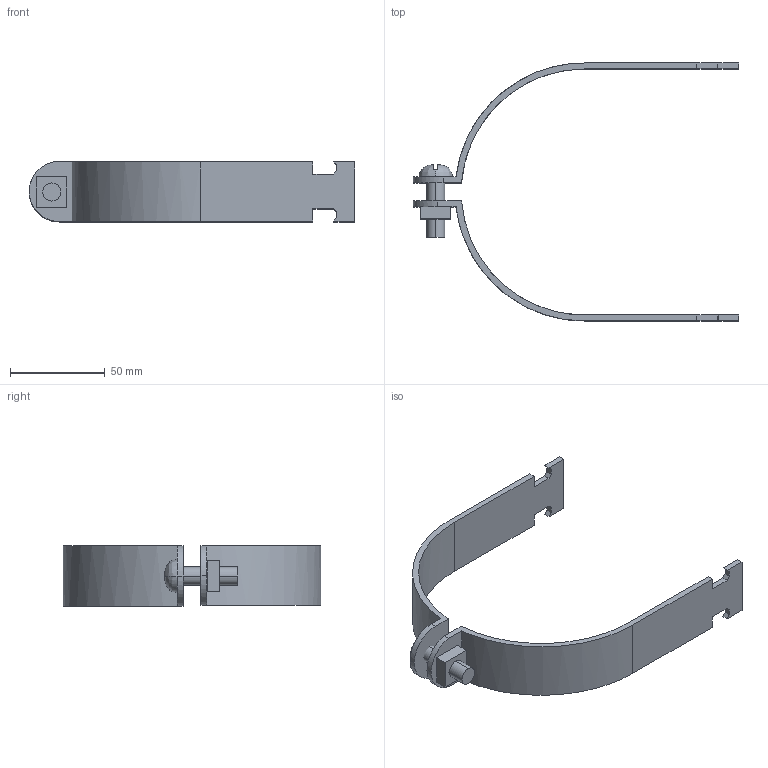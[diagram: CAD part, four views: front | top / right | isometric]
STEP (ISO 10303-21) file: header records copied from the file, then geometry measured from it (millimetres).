
FILE_DESCRIPTION(('TurboCAD Mac Pro'),'Build 980');
FILE_NAME('P2063.stp',' ',(''),(''),'ACIS Interop','IMSI','TurboCAD Mac Pro BY IMSI, INCORPORATED');
FILE_SCHEMA(('automotive_design'));
Length unit declared in the file: inch
Products named in the file (5): 1; 2; 3; 4; 5
Bounding box: 172.2 x 136.45 x 31.75 mm (x, y, z)
Volume: 43612.2 mm3; surface area: 30386.6 mm2
Topology: 4 solids, 4 shells, 71 faces, 186 edges, 124 vertices
Faces by surface type: plane 51, bspline 20
Entity records: 3448 total; most frequent: CARTESIAN_POINT 1049, ORIENTED_EDGE 372, DIRECTION 257, EDGE_CURVE 186, LINE 137, VECTOR 137, VERTEX_POINT 124, STYLED_ITEM 87
